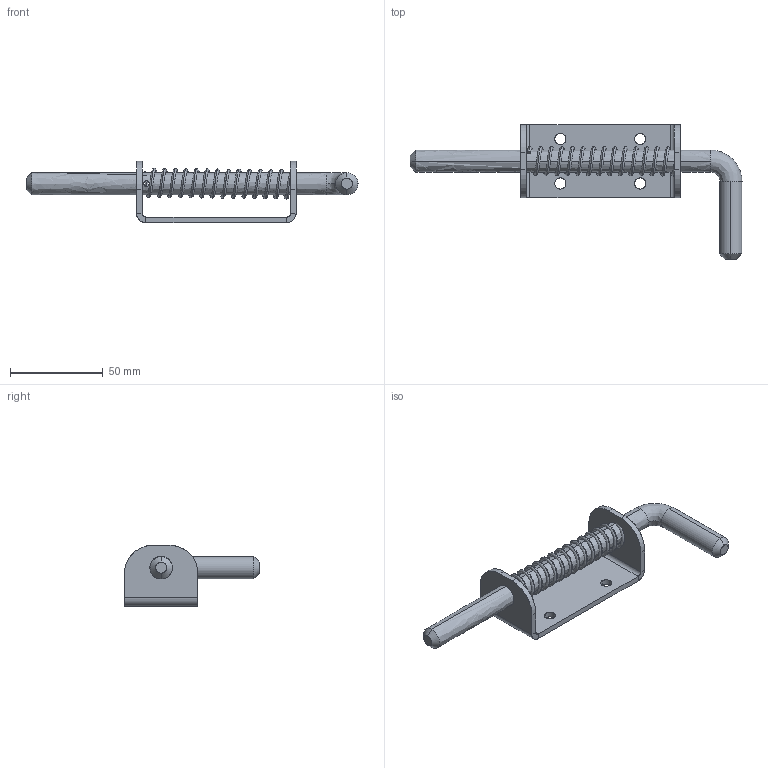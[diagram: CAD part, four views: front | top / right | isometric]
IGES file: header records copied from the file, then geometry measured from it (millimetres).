
Start section: SolidWorks IGES file using analytic representation for surfaces
Global section: file name: C:\Users\cbrechard\Desktop\30318 IB.IGS; native system: SolidWorks 2017; preprocessor: SolidWorks 2017; author: cbrechard; date: 180720.155614; units: millimetre
Bounding box: 179 x 72.75 x 33 mm (x, y, z)
Surface area: 23716.5 mm2 (no closed solid volume)
Topology: 0 solids, 0 shells, 56 faces, 1020 edges, 1020 vertices
Faces by surface type: revolution 30, bspline 26
